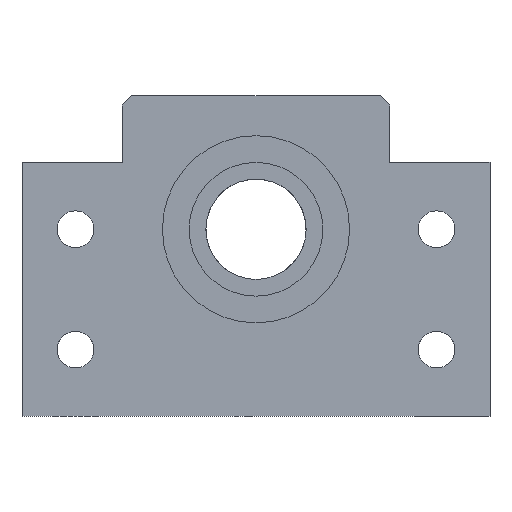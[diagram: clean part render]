
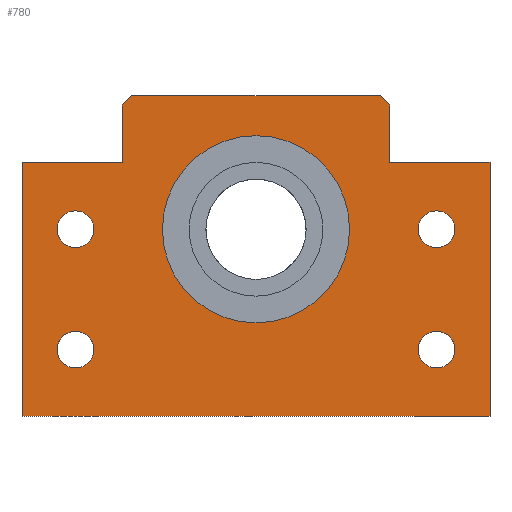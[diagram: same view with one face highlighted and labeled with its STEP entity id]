
A CAD part, left-side view. The second image highlights one B-rep face of the part: STEP entity #780.
In plain terms, the highlighted planar face has unit normal (-1, 0, 0).
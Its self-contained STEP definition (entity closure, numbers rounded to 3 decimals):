
#350=LINE('',#4583,#480);
#359=LINE('',#4730,#489);
#363=LINE('',#4739,#493);
#370=LINE('',#4801,#500);
#373=LINE('',#4811,#503);
#376=LINE('',#4817,#506);
#379=LINE('',#4823,#509);
#382=LINE('',#4829,#512);
#409=LINE('',#5592,#539);
#424=LINE('',#5655,#554);
#480=VECTOR('',#3251,1.);
#489=VECTOR('',#3276,1.);
#493=VECTOR('',#3282,1.);
#500=VECTOR('',#3303,1.);
#503=VECTOR('',#3312,1.);
#506=VECTOR('',#3317,1.);
#509=VECTOR('',#3322,1.);
#512=VECTOR('',#3327,1.);
#539=VECTOR('',#3478,1.);
#554=VECTOR('',#3513,1.);
#650=PLANE('',#2866);
#780=ADVANCED_FACE('',(#982,#983,#984,#985,#986,#987),#650,.F.);
#982=FACE_BOUND('',#1200,.T.);
#983=FACE_BOUND('',#1201,.T.);
#984=FACE_BOUND('',#1202,.T.);
#985=FACE_BOUND('',#1203,.T.);
#986=FACE_BOUND('',#1204,.T.);
#987=FACE_BOUND('',#1205,.T.);
#1200=EDGE_LOOP('',(#1850,#1851,#1852,#1853,#1854,#1855,#1856,#1857,#1858,
#1859));
#1201=EDGE_LOOP('',(#1860,#1861));
#1202=EDGE_LOOP('',(#1862,#1863));
#1203=EDGE_LOOP('',(#1864,#1865));
#1204=EDGE_LOOP('',(#1866,#1867));
#1205=EDGE_LOOP('',(#1868,#1869));
#1850=ORIENTED_EDGE('',*,*,#2317,.F.);
#1851=ORIENTED_EDGE('',*,*,#2479,.F.);
#1852=ORIENTED_EDGE('',*,*,#2342,.F.);
#1853=ORIENTED_EDGE('',*,*,#2460,.F.);
#1854=ORIENTED_EDGE('',*,*,#2369,.F.);
#1855=ORIENTED_EDGE('',*,*,#2366,.F.);
#1856=ORIENTED_EDGE('',*,*,#2363,.F.);
#1857=ORIENTED_EDGE('',*,*,#2360,.F.);
#1858=ORIENTED_EDGE('',*,*,#2355,.F.);
#1859=ORIENTED_EDGE('',*,*,#2338,.F.);
#1860=ORIENTED_EDGE('',*,*,#2377,.T.);
#1861=ORIENTED_EDGE('',*,*,#2374,.T.);
#1862=ORIENTED_EDGE('',*,*,#2385,.T.);
#1863=ORIENTED_EDGE('',*,*,#2381,.T.);
#1864=ORIENTED_EDGE('',*,*,#2393,.T.);
#1865=ORIENTED_EDGE('',*,*,#2389,.T.);
#1866=ORIENTED_EDGE('',*,*,#2306,.T.);
#1867=ORIENTED_EDGE('',*,*,#2482,.T.);
#1868=ORIENTED_EDGE('',*,*,#2295,.T.);
#1869=ORIENTED_EDGE('',*,*,#2483,.T.);
#2022=VERTEX_POINT('',#4343);
#2023=VERTEX_POINT('',#4345);
#2027=VERTEX_POINT('',#4487);
#2028=VERTEX_POINT('',#4489);
#2035=VERTEX_POINT('',#4581);
#2037=VERTEX_POINT('',#4584);
#2053=VERTEX_POINT('',#4731);
#2055=VERTEX_POINT('',#4737);
#2057=VERTEX_POINT('',#4740);
#2067=VERTEX_POINT('',#4802);
#2071=VERTEX_POINT('',#4812);
#2073=VERTEX_POINT('',#4818);
#2075=VERTEX_POINT('',#4824);
#2077=VERTEX_POINT('',#4830);
#2081=VERTEX_POINT('',#4839);
#2082=VERTEX_POINT('',#4841);
#2086=VERTEX_POINT('',#4889);
#2087=VERTEX_POINT('',#4891);
#2092=VERTEX_POINT('',#4977);
#2093=VERTEX_POINT('',#4979);
#2295=EDGE_CURVE('GENERATED CIRCLE',#2023,#2022,#2560,.T.);
#2306=EDGE_CURVE('GENERATED CIRCLE',#2028,#2027,#2562,.T.);
#2317=EDGE_CURVE('LINE',#2035,#2037,#350,.T.);
#2338=EDGE_CURVE('LINE',#2037,#2053,#359,.T.);
#2342=EDGE_CURVE('LINE',#2055,#2057,#363,.T.);
#2355=EDGE_CURVE('LINE',#2053,#2067,#370,.T.);
#2360=EDGE_CURVE('LINE',#2067,#2071,#373,.T.);
#2363=EDGE_CURVE('LINE',#2071,#2073,#376,.T.);
#2366=EDGE_CURVE('LINE',#2073,#2075,#379,.T.);
#2369=EDGE_CURVE('LINE',#2075,#2077,#382,.T.);
#2374=EDGE_CURVE('GENERATED CIRCLE',#2082,#2081,#2576,.T.);
#2377=EDGE_CURVE('GENERATED CIRCLE',#2081,#2082,#2578,.T.);
#2381=EDGE_CURVE('GENERATED CIRCLE',#2087,#2086,#2579,.T.);
#2385=EDGE_CURVE('GENERATED CIRCLE',#2086,#2087,#2580,.T.);
#2389=EDGE_CURVE('GENERATED CIRCLE',#2093,#2092,#2581,.T.);
#2393=EDGE_CURVE('GENERATED CIRCLE',#2092,#2093,#2582,.T.);
#2460=EDGE_CURVE('LINE',#2077,#2055,#409,.T.);
#2479=EDGE_CURVE('LINE',#2057,#2035,#424,.T.);
#2482=EDGE_CURVE('GENERATED CIRCLE',#2027,#2028,#2609,.T.);
#2483=EDGE_CURVE('GENERATED CIRCLE',#2022,#2023,#2610,.T.);
#2560=CIRCLE('',#2760,2.75);
#2562=CIRCLE('',#2764,2.75);
#2576=CIRCLE('',#2792,14.);
#2578=CIRCLE('',#2795,14.);
#2579=CIRCLE('',#2797,2.75);
#2580=CIRCLE('',#2799,2.75);
#2581=CIRCLE('',#2801,2.75);
#2582=CIRCLE('',#2803,2.75);
#2609=CIRCLE('',#2864,2.75);
#2610=CIRCLE('',#2865,2.75);
#2760=AXIS2_PLACEMENT_3D('',#4344,#3227,#3228);
#2764=AXIS2_PLACEMENT_3D('',#4488,#3237,#3238);
#2792=AXIS2_PLACEMENT_3D('',#4840,#3335,#3336);
#2795=AXIS2_PLACEMENT_3D('',#4845,#3342,#3343);
#2797=AXIS2_PLACEMENT_3D('',#4890,#3347,#3348);
#2799=AXIS2_PLACEMENT_3D('',#4933,#3352,#3353);
#2801=AXIS2_PLACEMENT_3D('',#4978,#3357,#3358);
#2803=AXIS2_PLACEMENT_3D('',#5021,#3362,#3363);
#2864=AXIS2_PLACEMENT_3D('',#5696,#3518,#3519);
#2865=AXIS2_PLACEMENT_3D('',#5697,#3520,#3521);
#2866=AXIS2_PLACEMENT_3D('',#5698,#3522,#3523);
#3227=DIRECTION('',(1.,0.,0.));
#3228=DIRECTION('',(0.,0.,-1.));
#3237=DIRECTION('',(1.,0.,0.));
#3238=DIRECTION('',(0.,0.,-1.));
#3251=DIRECTION('',(0.,1.,0.));
#3276=DIRECTION('',(0.,0.,1.));
#3282=DIRECTION('',(0.,-1.,0.));
#3303=DIRECTION('',(0.,-1.,0.));
#3312=DIRECTION('',(0.,0.,1.));
#3317=DIRECTION('',(0.,-0.707,0.707));
#3322=DIRECTION('',(0.,-1.,0.));
#3327=DIRECTION('',(0.,-0.707,-0.707));
#3335=DIRECTION('',(1.,0.,0.));
#3336=DIRECTION('',(0.,0.,-1.));
#3342=DIRECTION('',(1.,0.,0.));
#3343=DIRECTION('',(0.,0.,-1.));
#3347=DIRECTION('',(1.,0.,0.));
#3348=DIRECTION('',(0.,0.,-1.));
#3352=DIRECTION('',(1.,0.,0.));
#3353=DIRECTION('',(0.,0.,-1.));
#3357=DIRECTION('',(1.,0.,0.));
#3358=DIRECTION('',(0.,0.,-1.));
#3362=DIRECTION('',(1.,0.,0.));
#3363=DIRECTION('',(0.,0.,-1.));
#3478=DIRECTION('',(0.,0.,-1.));
#3513=DIRECTION('',(0.,0.,-1.));
#3518=DIRECTION('',(1.,0.,0.));
#3519=DIRECTION('',(0.,0.,-1.));
#3520=DIRECTION('',(1.,0.,0.));
#3521=DIRECTION('',(0.,0.,-1.));
#3522=DIRECTION('',(1.,0.,0.));
#3523=DIRECTION('',(0.,-1.,0.));
#4343=CARTESIAN_POINT('',(-13.5,-24.25,10.));
#4344=CARTESIAN_POINT('',(-13.5,-27.,10.));
#4345=CARTESIAN_POINT('',(-13.5,-29.75,10.));
#4487=CARTESIAN_POINT('',(-13.5,-24.25,28.));
#4488=CARTESIAN_POINT('',(-13.5,-27.,28.));
#4489=CARTESIAN_POINT('',(-13.5,-29.75,28.));
#4581=CARTESIAN_POINT('',(-13.5,-35.,0.));
#4583=CARTESIAN_POINT('',(-13.5,0.,0.));
#4584=CARTESIAN_POINT('',(-13.5,35.,0.));
#4730=CARTESIAN_POINT('',(-13.5,35.,19.));
#4731=CARTESIAN_POINT('',(-13.5,35.,38.));
#4737=CARTESIAN_POINT('',(-13.5,-20.,38.));
#4739=CARTESIAN_POINT('',(-13.5,-27.5,38.));
#4740=CARTESIAN_POINT('',(-13.5,-35.,38.));
#4801=CARTESIAN_POINT('',(-13.5,27.5,38.));
#4802=CARTESIAN_POINT('',(-13.5,20.,38.));
#4811=CARTESIAN_POINT('',(-13.5,20.,42.293));
#4812=CARTESIAN_POINT('',(-13.5,20.,46.586));
#4817=CARTESIAN_POINT('',(-13.5,19.293,47.293));
#4818=CARTESIAN_POINT('',(-13.5,18.586,48.));
#4823=CARTESIAN_POINT('',(-13.5,0.,48.));
#4824=CARTESIAN_POINT('',(-13.5,-18.586,48.));
#4829=CARTESIAN_POINT('',(-13.5,-19.293,47.293));
#4830=CARTESIAN_POINT('',(-13.5,-20.,46.586));
#4839=CARTESIAN_POINT('',(-13.5,14.,28.));
#4840=CARTESIAN_POINT('',(-13.5,0.,28.));
#4841=CARTESIAN_POINT('',(-13.5,-14.,28.));
#4845=CARTESIAN_POINT('',(-13.5,0.,28.));
#4889=CARTESIAN_POINT('',(-13.5,29.75,10.));
#4890=CARTESIAN_POINT('',(-13.5,27.,10.));
#4891=CARTESIAN_POINT('',(-13.5,24.25,10.));
#4933=CARTESIAN_POINT('',(-13.5,27.,10.));
#4977=CARTESIAN_POINT('',(-13.5,29.75,28.));
#4978=CARTESIAN_POINT('',(-13.5,27.,28.));
#4979=CARTESIAN_POINT('',(-13.5,24.25,28.));
#5021=CARTESIAN_POINT('',(-13.5,27.,28.));
#5592=CARTESIAN_POINT('',(-13.5,-20.,42.293));
#5655=CARTESIAN_POINT('',(-13.5,-35.,19.));
#5696=CARTESIAN_POINT('',(-13.5,-27.,28.));
#5697=CARTESIAN_POINT('',(-13.5,-27.,10.));
#5698=CARTESIAN_POINT('',(-13.5,0.,0.));
